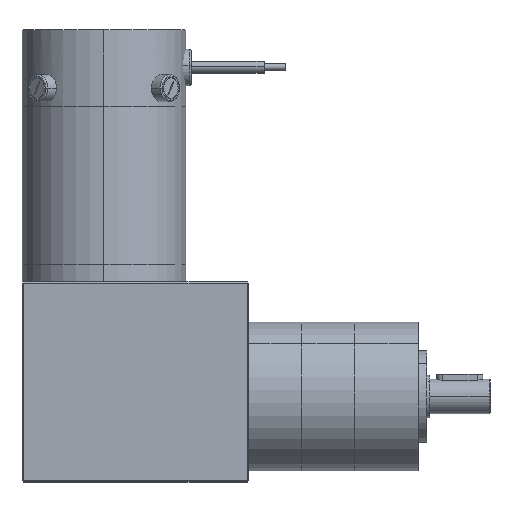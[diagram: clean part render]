
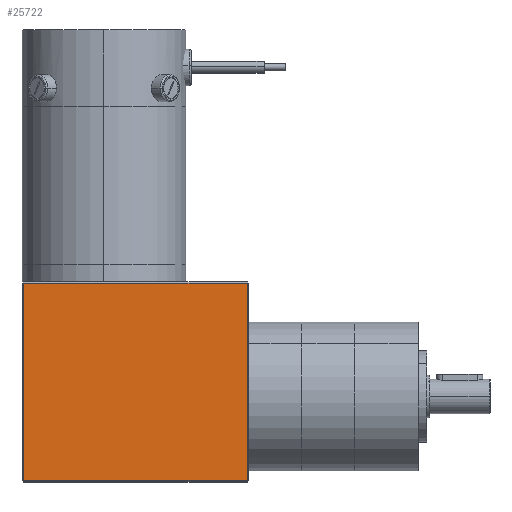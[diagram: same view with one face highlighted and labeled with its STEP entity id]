
A CAD part, top view. The second image highlights one B-rep face of the part: STEP entity #25722.
In plain terms, the highlighted planar face has unit normal (0, 0, 1).
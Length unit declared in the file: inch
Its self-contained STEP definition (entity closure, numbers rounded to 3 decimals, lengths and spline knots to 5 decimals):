
#211 = EDGE_CURVE ( 'NONE', #26160, #5496, #18611, .T. ) ;
#1220 = CARTESIAN_POINT ( 'NONE',  ( 6.99727, 2.54603, 3.00127 ) ) ;
#1953 = CARTESIAN_POINT ( 'NONE',  ( 5.46077, 1.19103, 3.00127 ) ) ;
#3707 = DIRECTION ( 'NONE',  ( 0., 0., 1. ) ) ;
#4697 = CARTESIAN_POINT ( 'NONE',  ( 7.01727, -0.16397, 3.00127 ) ) ;
#5165 = VECTOR ( 'NONE', #18817, 39.37008 ) ;
#5496 = VERTEX_POINT ( 'NONE', #14402 ) ;
#5736 = DIRECTION ( 'NONE',  ( 0., -1., 0. ) ) ;
#6066 = EDGE_LOOP ( 'NONE', ( #9125, #11623, #11919, #22824 ) ) ;
#7517 = LINE ( 'NONE', #16880, #5165 ) ;
#8343 = VECTOR ( 'NONE', #8831, 39.37008 ) ;
#8831 = DIRECTION ( 'NONE',  ( 1., 0., 0. ) ) ;
#9125 = ORIENTED_EDGE ( 'NONE', *, *, #24405, .T. ) ;
#11623 = ORIENTED_EDGE ( 'NONE', *, *, #23374, .T. ) ;
#11919 = ORIENTED_EDGE ( 'NONE', *, *, #21315, .T. ) ;
#13386 = VERTEX_POINT ( 'NONE', #1220 ) ;
#14402 = CARTESIAN_POINT ( 'NONE',  ( 3.92427, -0.16397, 3.00127 ) ) ;
#14622 = CARTESIAN_POINT ( 'NONE',  ( 3.92427, -0.18397, 3.00127 ) ) ;
#14728 = LINE ( 'NONE', #4697, #8343 ) ;
#16286 = CARTESIAN_POINT ( 'NONE',  ( 3.90427, 2.54603, 3.00127 ) ) ;
#16880 = CARTESIAN_POINT ( 'NONE',  ( 6.99727, 2.56603, 3.00127 ) ) ;
#17010 = DIRECTION ( 'NONE',  ( 1., 0., 0. ) ) ;
#17014 = LINE ( 'NONE', #16286, #27100 ) ;
#17346 = VERTEX_POINT ( 'NONE', #27721 ) ;
#17959 = VECTOR ( 'NONE', #5736, 39.37008 ) ;
#18611 = LINE ( 'NONE', #14622, #17959 ) ;
#18817 = DIRECTION ( 'NONE',  ( 0., 1., 0. ) ) ;
#19837 = CARTESIAN_POINT ( 'NONE',  ( 3.92427, 2.54603, 3.00127 ) ) ;
#20655 = AXIS2_PLACEMENT_3D ( 'NONE', #1953, #3707, #17010 ) ;
#21315 = EDGE_CURVE ( 'NONE', #13386, #26160, #17014, .T. ) ;
#22553 = PLANE ( 'NONE',  #20655 ) ;
#22824 = ORIENTED_EDGE ( 'NONE', *, *, #211, .T. ) ;
#23027 = FACE_OUTER_BOUND ( 'NONE', #6066, .T. ) ;
#23374 = EDGE_CURVE ( 'NONE', #17346, #13386, #7517, .T. ) ;
#24405 = EDGE_CURVE ( 'NONE', #5496, #17346, #14728, .T. ) ;
#24906 = DIRECTION ( 'NONE',  ( -1., 0., 0. ) ) ;
#25722 = ADVANCED_FACE ( 'NONE', ( #23027 ), #22553, .T. ) ;
#26160 = VERTEX_POINT ( 'NONE', #19837 ) ;
#27100 = VECTOR ( 'NONE', #24906, 39.37008 ) ;
#27721 = CARTESIAN_POINT ( 'NONE',  ( 6.99727, -0.16397, 3.00127 ) ) ;
